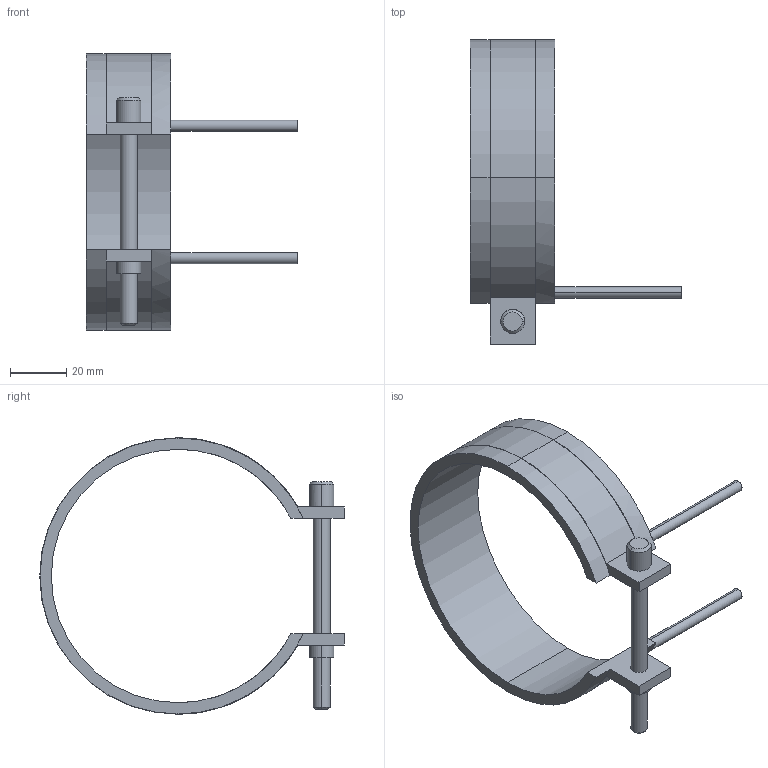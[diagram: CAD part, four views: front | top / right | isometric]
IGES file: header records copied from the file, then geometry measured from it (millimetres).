
Start section: START RECORD GO HERE.
Global section: file name: 14090030.igs; native system: DASSAULT SYSTEMES CATIA V5 R20 - www.3ds.com; preprocessor: CATIA Version 5 Release 20 ; author: Utente; organization: NB04-ASUS; date: 20210406.181228; units: millimetre
Bounding box: 75 x 108.1 x 98.2 mm (x, y, z)
Surface area: 21279 mm2 (no closed solid volume)
Topology: 0 solids, 0 shells, 45 faces, 232 edges, 232 vertices
Faces by surface type: revolution 28, plane 17
